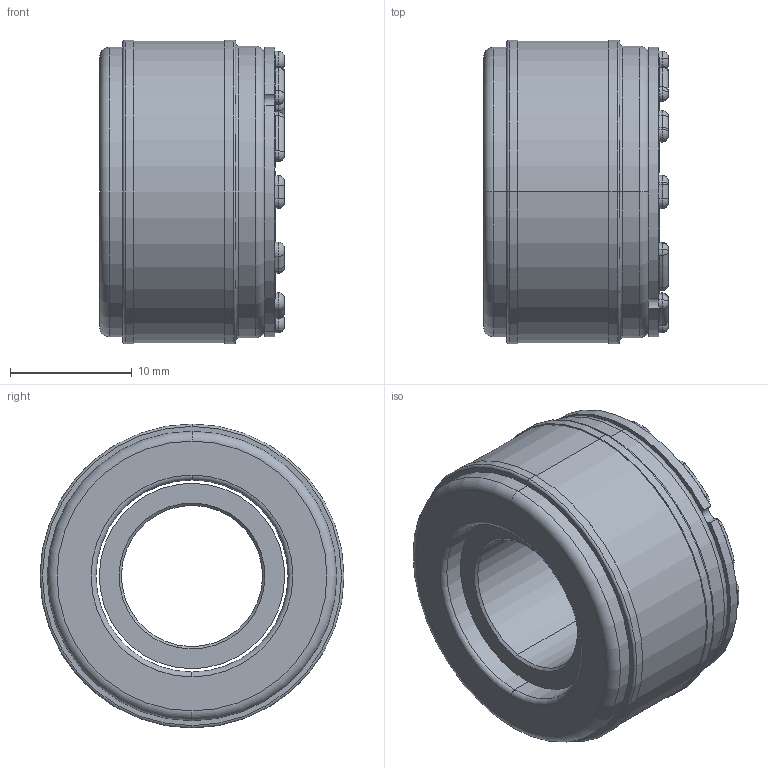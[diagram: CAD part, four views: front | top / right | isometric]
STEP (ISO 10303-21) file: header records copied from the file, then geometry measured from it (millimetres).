
FILE_DESCRIPTION (( 'STEP AP214' ), '1' );
FILE_NAME ('E-00108506.05.step', '2020-01-09T12:04:05', ( '' ), ( '' ), 'SwSTEP 2.0', 'SolidWorks 2018', '' );
FILE_SCHEMA (( 'AUTOMOTIVE_DESIGN' ));
Length unit declared in the file: millimetre
Products named in the file (4): E-00008491; E-00108506.05; E-00008498; E-00108504
Assembly tree (3 placements, depth 2):
  E-00108506.05
    E-00108504
    E-00008491
    E-00008498
Bounding box: 15.2 x 25 x 25 mm (x, y, z)
Volume: 4723.1 mm3; surface area: 3889.1 mm2
Topology: 3 solids, 3 shells, 591 faces, 1384 edges, 895 vertices
Faces by surface type: plane 264, cylinder 257, torus 66, cone 4
Entity records: 22218 total; most frequent: DIRECTION 3254, CARTESIAN_POINT 2876, ORIENTED_EDGE 2768, EDGE_CURVE 1384, AXIS2_PLACEMENT_3D 1273, VERTEX_POINT 895, LINE 708, VECTOR 708
